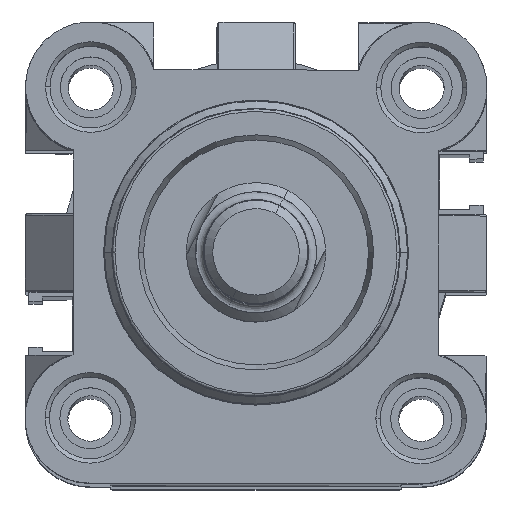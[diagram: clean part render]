
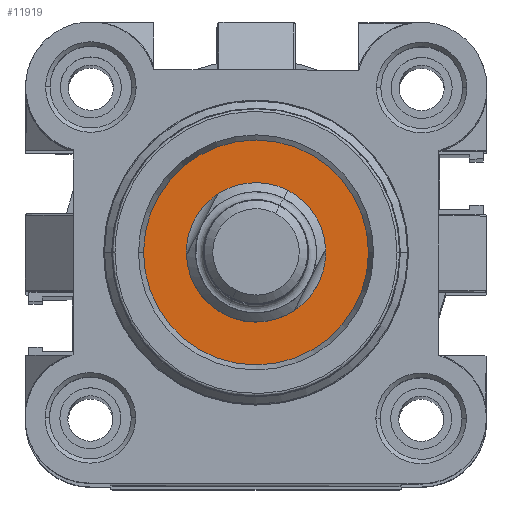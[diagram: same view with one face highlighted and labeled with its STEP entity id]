
A CAD part, top view. The second image highlights one B-rep face of the part: STEP entity #11919.
In plain terms, the highlighted planar face has unit normal (0, 0, 1) as drawn and (0, 0, -1) by its records, which use the part's own axes.
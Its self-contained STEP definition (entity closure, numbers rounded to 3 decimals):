
#17 = CARTESIAN_POINT ( 'NONE',  ( 21., 21., -18.5 ) ) ;
#372 = CARTESIAN_POINT ( 'NONE',  ( 21., 21., -18.5 ) ) ;
#826 = FACE_OUTER_BOUND ( 'NONE', #9506, .T. ) ;
#866 = DIRECTION ( 'NONE',  ( 0., 1., 0. ) ) ;
#1030 = VERTEX_POINT ( 'NONE', #11723 ) ;
#1314 = DIRECTION ( 'NONE',  ( -1., 0., 0. ) ) ;
#1520 = AXIS2_PLACEMENT_3D ( 'NONE', #3241, #12079, #4482 ) ;
#1548 = AXIS2_PLACEMENT_3D ( 'NONE', #372, #9299, #1674 ) ;
#1674 = DIRECTION ( 'NONE',  ( -1., 0., 0. ) ) ;
#3241 = CARTESIAN_POINT ( 'NONE',  ( 21., 21., -18.5 ) ) ;
#3407 = ORIENTED_EDGE ( 'NONE', *, *, #12442, .T. ) ;
#3423 = CARTESIAN_POINT ( 'NONE',  ( 21., 29., -18.5 ) ) ;
#4191 = ORIENTED_EDGE ( 'NONE', *, *, #16457, .F. ) ;
#4263 = FACE_BOUND ( 'NONE', #16518, .T. ) ;
#4482 = DIRECTION ( 'NONE',  ( 0., 1., 0. ) ) ;
#5041 = CARTESIAN_POINT ( 'NONE',  ( 8.082, 21., -18.5 ) ) ;
#5273 = DIRECTION ( 'NONE',  ( -1., 0., 0. ) ) ;
#5721 = CIRCLE ( 'NONE', #1548, 12.918 ) ;
#6344 = VERTEX_POINT ( 'NONE', #9656 ) ;
#6638 = AXIS2_PLACEMENT_3D ( 'NONE', #17, #8941, #1314 ) ;
#6644 = AXIS2_PLACEMENT_3D ( 'NONE', #16151, #8494, #866 ) ;
#6903 = AXIS2_PLACEMENT_3D ( 'NONE', #9025, #12831, #5273 ) ;
#7811 = CIRCLE ( 'NONE', #6644, 8. ) ;
#7903 = VERTEX_POINT ( 'NONE', #3423 ) ;
#8494 = DIRECTION ( 'NONE',  ( 0., 0., -1. ) ) ;
#8941 = DIRECTION ( 'NONE',  ( 0., 0., -1. ) ) ;
#9025 = CARTESIAN_POINT ( 'NONE',  ( 34.073, 7.927, -18.5 ) ) ;
#9299 = DIRECTION ( 'NONE',  ( 0., 0., -1. ) ) ;
#9332 = ORIENTED_EDGE ( 'NONE', *, *, #12256, .F. ) ;
#9506 = EDGE_LOOP ( 'NONE', ( #11698, #3407 ) ) ;
#9656 = CARTESIAN_POINT ( 'NONE',  ( 21., 13., -18.5 ) ) ;
#9991 = CIRCLE ( 'NONE', #6638, 12.918 ) ;
#11281 = CIRCLE ( 'NONE', #1520, 8. ) ;
#11698 = ORIENTED_EDGE ( 'NONE', *, *, #16370, .T. ) ;
#11723 = CARTESIAN_POINT ( 'NONE',  ( 33.918, 21., -18.5 ) ) ;
#11919 = ADVANCED_FACE ( 'NONE', ( #4263, #826 ), #15228, .T. ) ;
#12079 = DIRECTION ( 'NONE',  ( 0., 0., -1. ) ) ;
#12256 = EDGE_CURVE ( 'NONE', #6344, #7903, #7811, .T. ) ;
#12442 = EDGE_CURVE ( 'NONE', #1030, #12954, #9991, .T. ) ;
#12831 = DIRECTION ( 'NONE',  ( 0., 0., -1. ) ) ;
#12954 = VERTEX_POINT ( 'NONE', #5041 ) ;
#15228 = PLANE ( 'NONE',  #6903 ) ;
#16151 = CARTESIAN_POINT ( 'NONE',  ( 21., 21., -18.5 ) ) ;
#16370 = EDGE_CURVE ( 'NONE', #12954, #1030, #5721, .T. ) ;
#16457 = EDGE_CURVE ( 'NONE', #7903, #6344, #11281, .T. ) ;
#16518 = EDGE_LOOP ( 'NONE', ( #4191, #9332 ) ) ;
